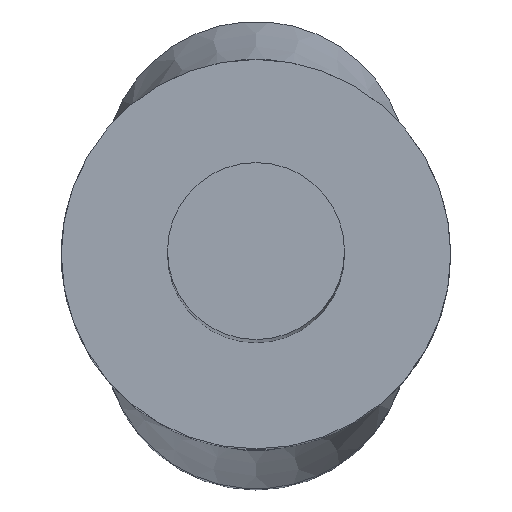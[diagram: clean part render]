
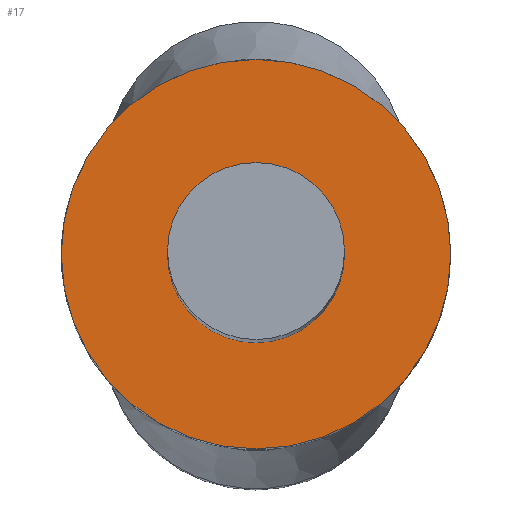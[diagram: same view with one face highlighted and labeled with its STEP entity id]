
A CAD part, top view. The second image highlights one B-rep face of the part: STEP entity #17.
In plain terms, the highlighted planar face has unit normal (0, 0, 1).
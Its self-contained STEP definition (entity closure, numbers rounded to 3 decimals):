
#17 = ADVANCED_FACE('',(#18,#29),#40,.T.);
#18 = FACE_BOUND('',#19,.T.);
#19 = EDGE_LOOP('',(#20));
#20 = ORIENTED_EDGE('',*,*,#21,.T.);
#21 = EDGE_CURVE('',#22,#22,#24,.T.);
#22 = VERTEX_POINT('',#23);
#23 = CARTESIAN_POINT('',(5.5,0.,35.));
#24 = CIRCLE('',#25,5.5);
#25 = AXIS2_PLACEMENT_3D('',#26,#27,#28);
#26 = CARTESIAN_POINT('',(0.,0.,35.));
#27 = DIRECTION('',(0.,0.,1.));
#28 = DIRECTION('',(1.,0.,0.));
#29 = FACE_BOUND('',#30,.T.);
#30 = EDGE_LOOP('',(#31));
#31 = ORIENTED_EDGE('',*,*,#32,.F.);
#32 = EDGE_CURVE('',#33,#33,#35,.T.);
#33 = VERTEX_POINT('',#34);
#34 = CARTESIAN_POINT('',(2.5,0.,35.));
#35 = CIRCLE('',#36,2.5);
#36 = AXIS2_PLACEMENT_3D('',#37,#38,#39);
#37 = CARTESIAN_POINT('',(0.,0.,35.));
#38 = DIRECTION('',(0.,0.,1.));
#39 = DIRECTION('',(1.,0.,0.));
#40 = PLANE('',#41);
#41 = AXIS2_PLACEMENT_3D('',#42,#43,#44);
#42 = CARTESIAN_POINT('',(0.,0.,35.));
#43 = DIRECTION('',(0.,0.,1.));
#44 = DIRECTION('',(1.,0.,0.));
